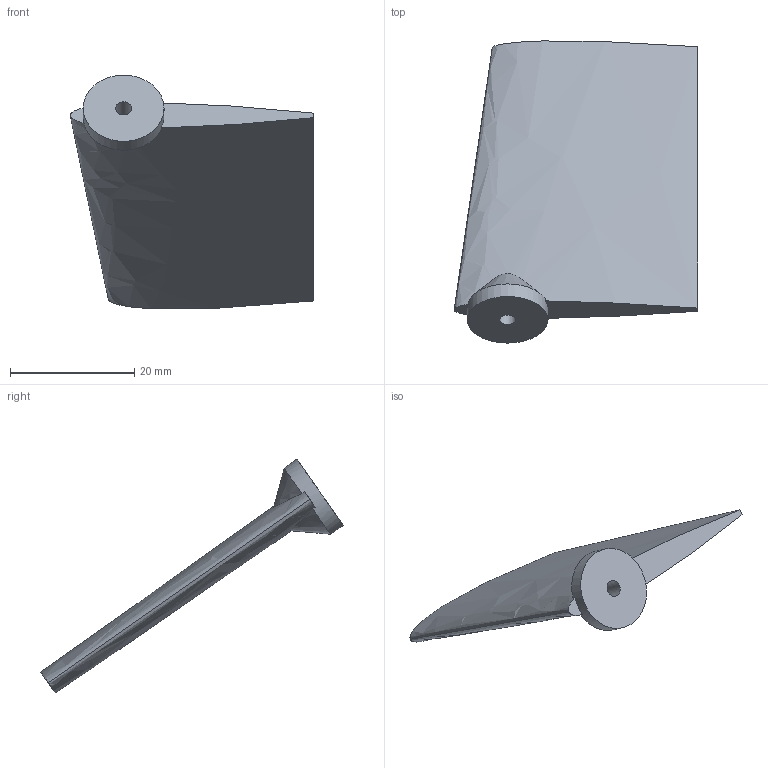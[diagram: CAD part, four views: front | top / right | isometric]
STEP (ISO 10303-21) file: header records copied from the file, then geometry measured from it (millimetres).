
FILE_DESCRIPTION(('Open CASCADE Model'),'2;1');
FILE_NAME('Open CASCADE Shape Model','2026-10-07T11:47:17',('Author'),( 'Open CASCADE'),'Open CASCADE STEP processor 7.9','Open CASCADE 7.9' ,'Unknown');
FILE_SCHEMA(('AUTOMOTIVE_DESIGN { 1 0 10303 214 1 1 1 1 }'));
Length unit declared in the file: millimetre
Products named in the file (1): Open CASCADE STEP translator 7.9 20
Bounding box: 39.2 x 48.66 x 37.59 mm (x, y, z)
Volume: 6527.9 mm3; surface area: 4589.8 mm2
Topology: 1 solids, 1 shells, 12 faces, 27 edges, 18 vertices
Faces by surface type: plane 6, bspline 2, cone 2, cylinder 2
Full cylindrical faces by diameter (mm): 2.6 x1, 13 x1
Entity records: 2224 total; most frequent: CARTESIAN_POINT 1722, DIRECTION 72, ORIENTED_EDGE 54, PCURVE 54, DEFINITIONAL_REPRESENTATION 54, B_SPLINE_CURVE_WITH_KNOTS 37, LINE 31, VECTOR 31
